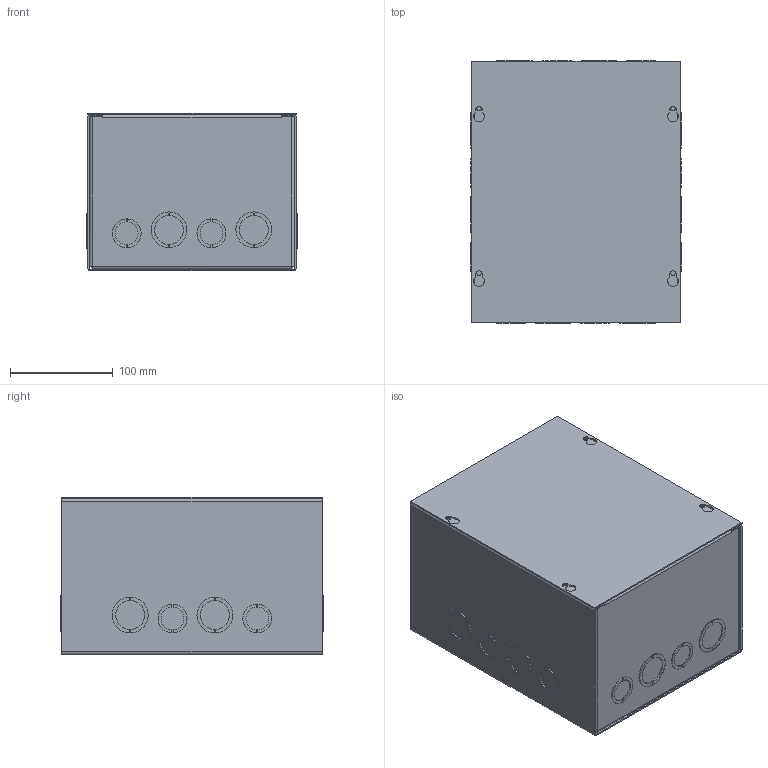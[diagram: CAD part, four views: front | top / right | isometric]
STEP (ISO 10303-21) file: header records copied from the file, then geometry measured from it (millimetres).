
FILE_DESCRIPTION (( 'STEP AP203' ), '1' );
FILE_NAME ('asg10x8x6.STEP', '2011-02-01T15:12:38', ( 'Hoffman User' ), ( 'Hoffman Enclosures' ), 'SwSTEP 2.0', 'SolidWorks 2009', '' );
FILE_SCHEMA (( 'CONFIG_CONTROL_DESIGN' ));
Length unit declared in the file: inch
Products named in the file (5): asg10x8x6; 42304054; 89053792_WELDMENT; 89056779; 43306023
Assembly tree (5 placements, depth 3):
  asg10x8x6
    89053792_WELDMENT
      89056779
      43306023  x2
    42304054
Bounding box: 204.79 x 255.59 x 153.8 mm (x, y, z)
Volume: 365459.6 mm3; surface area: 534089.4 mm2
Topology: 4 solids, 4 shells, 509 faces, 1200 edges, 766 vertices
Faces by surface type: plane 299, cylinder 188, torus 10, bspline 8, cone 4
Entity records: 12195 total; most frequent: CARTESIAN_POINT 2370, DIRECTION 2012, ORIENTED_EDGE 1836, EDGE_CURVE 918, AXIS2_PLACEMENT_3D 710, LINE 592, VECTOR 592, VERTEX_POINT 588
